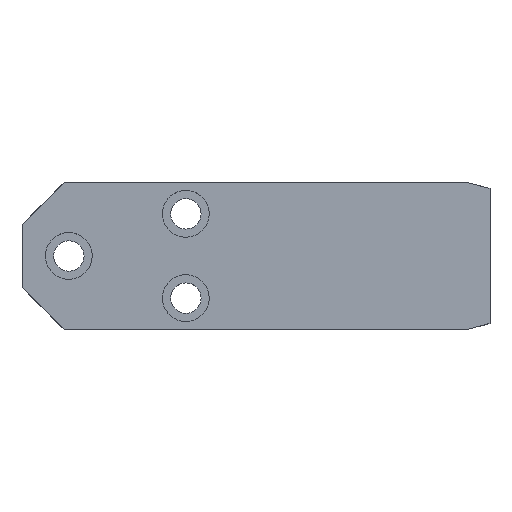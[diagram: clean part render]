
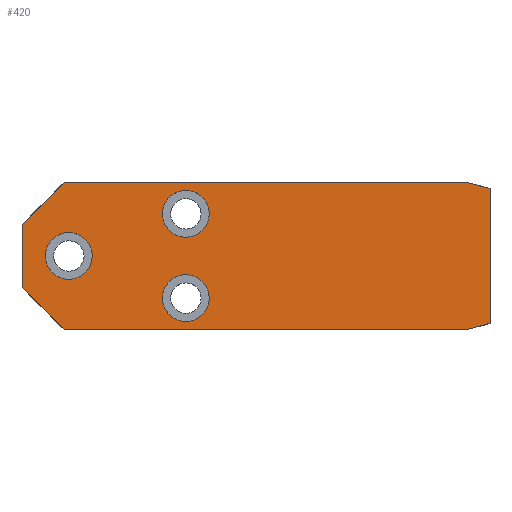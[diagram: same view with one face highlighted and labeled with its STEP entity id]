
A CAD part, top view. The second image highlights one B-rep face of the part: STEP entity #420.
In plain terms, the highlighted planar face has unit normal (0, 0, 1).
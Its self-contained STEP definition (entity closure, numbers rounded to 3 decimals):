
#20=FACE_BOUND('',#66,.T.);
#21=FACE_BOUND('',#67,.T.);
#22=FACE_BOUND('',#68,.T.);
#29=CIRCLE('',#464,10.);
#30=CIRCLE('',#465,10.);
#31=CIRCLE('',#466,10.);
#42=FACE_OUTER_BOUND('',#65,.T.);
#65=EDGE_LOOP('',(#276,#277,#278,#279,#280,#281,#282,#283));
#66=EDGE_LOOP('',(#284));
#67=EDGE_LOOP('',(#285));
#68=EDGE_LOOP('',(#286));
#96=LINE('',#615,#138);
#102=LINE('',#627,#144);
#103=LINE('',#629,#145);
#104=LINE('',#631,#146);
#105=LINE('',#633,#147);
#106=LINE('',#635,#148);
#107=LINE('',#637,#149);
#108=LINE('',#638,#150);
#138=VECTOR('',#501,10.);
#144=VECTOR('',#509,10.);
#145=VECTOR('',#510,10.);
#146=VECTOR('',#511,10.);
#147=VECTOR('',#512,10.);
#148=VECTOR('',#513,10.);
#149=VECTOR('',#514,10.);
#150=VECTOR('',#515,10.);
#180=VERTEX_POINT('',#613);
#181=VERTEX_POINT('',#614);
#186=VERTEX_POINT('',#626);
#187=VERTEX_POINT('',#628);
#188=VERTEX_POINT('',#630);
#189=VERTEX_POINT('',#632);
#190=VERTEX_POINT('',#634);
#191=VERTEX_POINT('',#636);
#192=VERTEX_POINT('',#639);
#193=VERTEX_POINT('',#641);
#194=VERTEX_POINT('',#643);
#216=EDGE_CURVE('',#180,#181,#96,.T.);
#222=EDGE_CURVE('',#180,#186,#102,.T.);
#223=EDGE_CURVE('',#187,#186,#103,.T.);
#224=EDGE_CURVE('',#187,#188,#104,.T.);
#225=EDGE_CURVE('',#189,#188,#105,.T.);
#226=EDGE_CURVE('',#189,#190,#106,.T.);
#227=EDGE_CURVE('',#191,#190,#107,.T.);
#228=EDGE_CURVE('',#191,#181,#108,.T.);
#229=EDGE_CURVE('',#192,#192,#29,.T.);
#230=EDGE_CURVE('',#193,#193,#30,.T.);
#231=EDGE_CURVE('',#194,#194,#31,.T.);
#276=ORIENTED_EDGE('',*,*,#216,.F.);
#277=ORIENTED_EDGE('',*,*,#222,.T.);
#278=ORIENTED_EDGE('',*,*,#223,.F.);
#279=ORIENTED_EDGE('',*,*,#224,.T.);
#280=ORIENTED_EDGE('',*,*,#225,.F.);
#281=ORIENTED_EDGE('',*,*,#226,.T.);
#282=ORIENTED_EDGE('',*,*,#227,.F.);
#283=ORIENTED_EDGE('',*,*,#228,.T.);
#284=ORIENTED_EDGE('',*,*,#229,.T.);
#285=ORIENTED_EDGE('',*,*,#230,.T.);
#286=ORIENTED_EDGE('',*,*,#231,.T.);
#379=PLANE('',#463);
#420=ADVANCED_FACE('',(#42,#20,#21,#22),#379,.T.);
#463=AXIS2_PLACEMENT_3D('',#625,#507,#508);
#464=AXIS2_PLACEMENT_3D('',#640,#516,#517);
#465=AXIS2_PLACEMENT_3D('',#642,#518,#519);
#466=AXIS2_PLACEMENT_3D('',#644,#520,#521);
#501=DIRECTION('',(0.707,0.707,0.));
#507=DIRECTION('center_axis',(0.,0.,1.));
#508=DIRECTION('ref_axis',(1.,0.,0.));
#509=DIRECTION('',(0.,-1.,0.));
#510=DIRECTION('',(-0.707,0.707,0.));
#511=DIRECTION('',(1.,0.,0.));
#512=DIRECTION('',(-0.966,-0.259,0.));
#513=DIRECTION('',(0.,1.,0.));
#514=DIRECTION('',(0.966,-0.259,0.));
#515=DIRECTION('',(-1.,0.,0.));
#516=DIRECTION('center_axis',(0.,0.,-1.));
#517=DIRECTION('ref_axis',(1.,0.,0.));
#518=DIRECTION('center_axis',(0.,0.,-1.));
#519=DIRECTION('ref_axis',(1.,0.,0.));
#520=DIRECTION('center_axis',(0.,0.,-1.));
#521=DIRECTION('ref_axis',(1.,0.,0.));
#613=CARTESIAN_POINT('',(-200.,45.,36.));
#614=CARTESIAN_POINT('',(-182.,63.,36.));
#615=CARTESIAN_POINT('',(-173.875,71.125,36.));
#625=CARTESIAN_POINT('Origin',(-100.,31.5,36.));
#626=CARTESIAN_POINT('',(-200.,18.,36.));
#627=CARTESIAN_POINT('',(-200.,63.,36.));
#628=CARTESIAN_POINT('',(-182.,0.,36.));
#629=CARTESIAN_POINT('',(-173.875,-8.125,36.));
#630=CARTESIAN_POINT('',(-10.,0.,36.));
#631=CARTESIAN_POINT('',(-200.,0.,36.));
#632=CARTESIAN_POINT('',(0.,2.679,36.));
#633=CARTESIAN_POINT('',(-45.548,-9.525,36.));
#634=CARTESIAN_POINT('',(0.,60.321,36.));
#635=CARTESIAN_POINT('',(0.,0.,36.));
#636=CARTESIAN_POINT('',(-10.,63.,36.));
#637=CARTESIAN_POINT('',(-45.548,72.525,36.));
#638=CARTESIAN_POINT('',(0.,63.,36.));
#639=CARTESIAN_POINT('',(-140.,49.5,36.));
#640=CARTESIAN_POINT('Origin',(-130.,49.5,36.));
#641=CARTESIAN_POINT('',(-140.,13.5,36.));
#642=CARTESIAN_POINT('Origin',(-130.,13.5,36.));
#643=CARTESIAN_POINT('',(-190.,31.5,36.));
#644=CARTESIAN_POINT('Origin',(-180.,31.5,36.));
